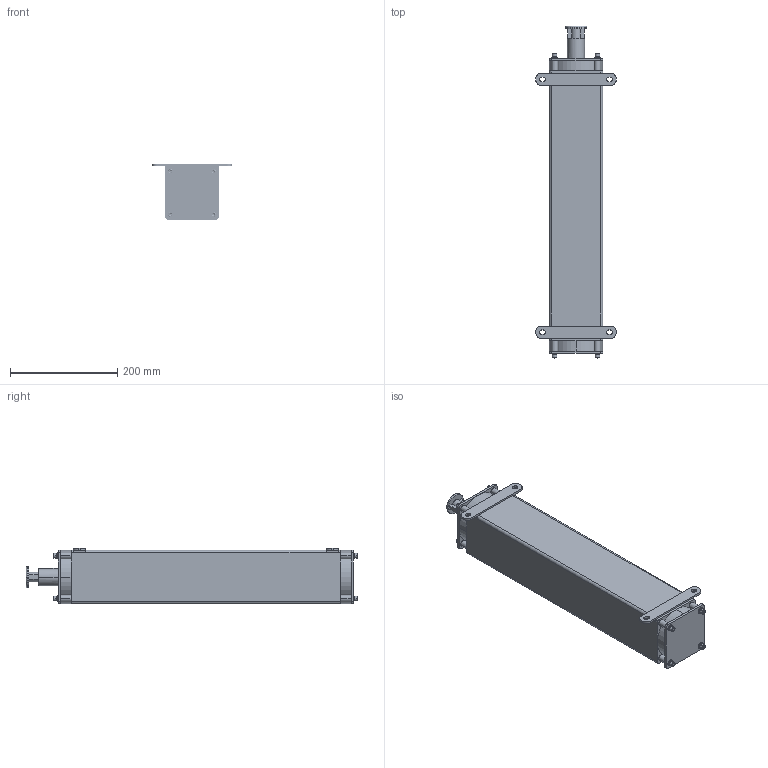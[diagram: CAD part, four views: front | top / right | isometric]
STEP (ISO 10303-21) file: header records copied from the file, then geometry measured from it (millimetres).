
FILE_DESCRIPTION((''),'2;1');
FILE_NAME('EFB-EX_ASM','2021-08-19T10:25:21',('18720616900'),(''),'CREO PARAMETRIC BY PTC INC, 2019010','CREO PARAMETRIC BY PTC INC, 2019010','');
FILE_SCHEMA(('CONFIG_CONTROL_DESIGN'));
Length unit declared in the file: millimetre
Products named in the file (6): EFB-EX-115; M6-50-0001; M6-1--00; M6-1-00; 0001_ASM; EFB-EX_ASM
Assembly tree (12 placements, depth 3):
  EFB-EX_ASM
    EFB-EX-115
    0001_ASM  x8
      M6-50-0001
      M6-1--00
      M6-1-00
Bounding box: 150 x 619.5 x 104 mm (x, y, z)
Volume: 766731.5 mm3; surface area: 478254.7 mm2
Topology: 25 solids, 33 shells, 1251 faces, 3238 edges, 2074 vertices
Faces by surface type: cone 488, plane 265, bspline 264, cylinder 184, torus 50
Entity records: 19649 total; most frequent: CARTESIAN_POINT 10843, ORIENTED_EDGE 1810, DIRECTION 1750, EDGE_CURVE 921, AXIS2_PLACEMENT_3D 657, VERTEX_POINT 597, VECTOR 436, LINE 436
